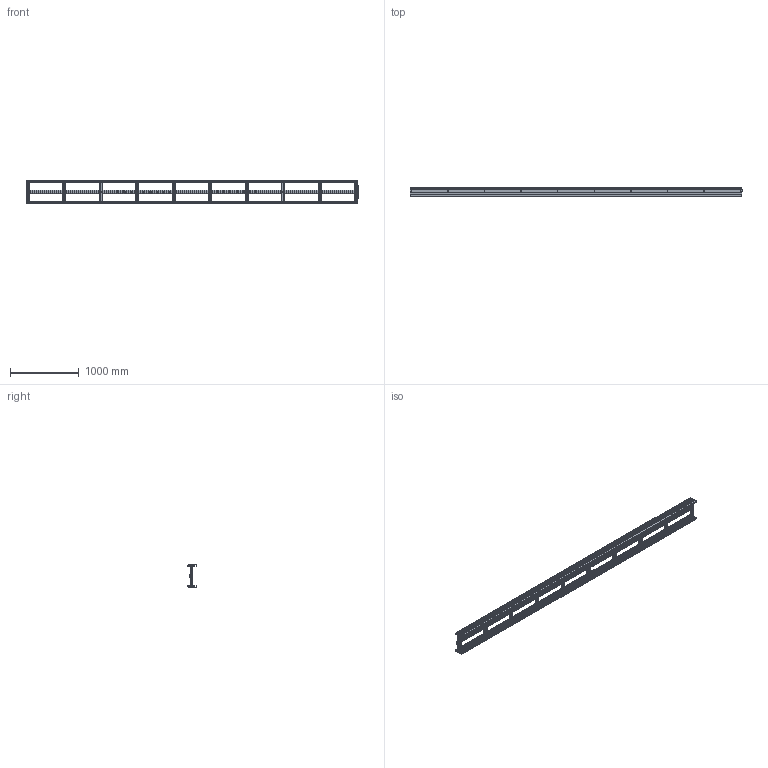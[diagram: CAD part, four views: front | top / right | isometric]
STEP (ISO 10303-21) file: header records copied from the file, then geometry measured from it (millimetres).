
FILE_DESCRIPTION (( 'STEP AP203' ), '1' );
FILE_NAME ('2000.1200.003.STEP', '2015-04-15T14:45:06', ( '' ), ( '' ), 'SwSTEP 2.0', 'SolidWorks 2012', '' );
FILE_SCHEMA (( 'CONFIG_CONTROL_DESIGN' ));
Products named in the file (1): 2000.1200.003
Bounding box: 4820 x 134.24 x 320 mm (x, y, z)
Volume: 12454543.9 mm3; surface area: 9341004.8 mm2
Topology: 19 solids, 19 shells, 1620 faces, 4748 edges, 3120 vertices
Faces by surface type: plane 884, cylinder 684, cone 52
Entity records: 57165 total; most frequent: CARTESIAN_POINT 12581, ORIENTED_EDGE 9496, DIRECTION 9162, EDGE_CURVE 4748, LINE 3184, VECTOR 3184, VERTEX_POINT 3120, AXIS2_PLACEMENT_3D 2989
